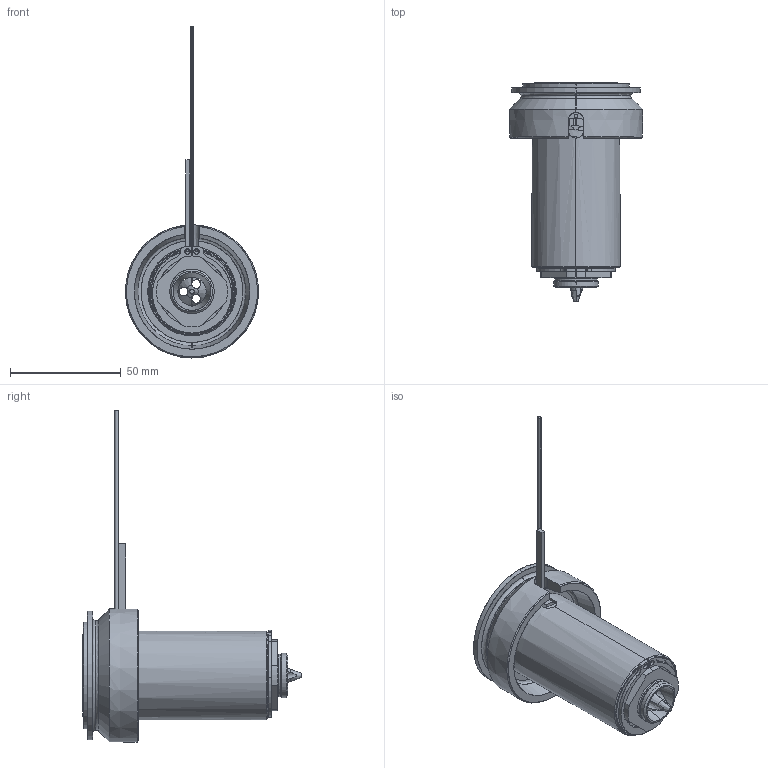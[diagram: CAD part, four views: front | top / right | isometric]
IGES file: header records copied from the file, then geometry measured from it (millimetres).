
Start section: SolidWorks IGES file using analytic representation for surfaces
Global section: file name: C:\Documents and Settings\ws-20\Desktop\TEM\UGEP6003-M-A-0 [Øf-1.9 ØC-17].IGS; native system: SolidWorks 2012; preprocessor: SolidWorks 2012; author: ws-20; date: 120427.094555; units: millimetre
Bounding box: 60 x 99.05 x 149.65 mm (x, y, z)
Surface area: 47365.2 mm2 (no closed solid volume)
Topology: 0 solids, 0 shells, 133 faces, 2583 edges, 2583 vertices
Faces by surface type: revolution 83, bspline 50
